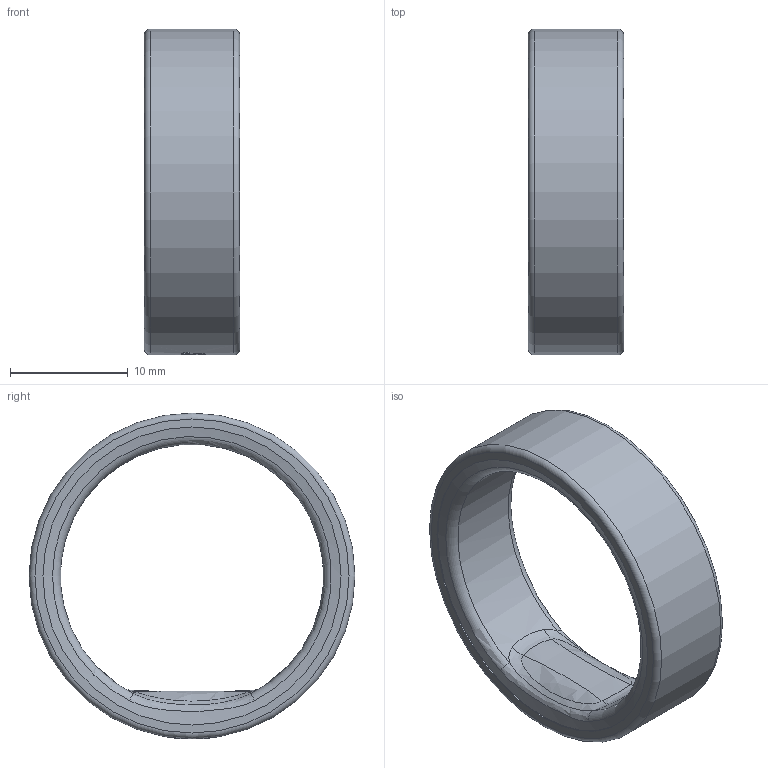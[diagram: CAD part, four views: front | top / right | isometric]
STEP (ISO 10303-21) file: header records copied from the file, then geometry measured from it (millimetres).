
FILE_DESCRIPTION(/* description */ (''),/* implementation_level */ '2;1');
FILE_NAME(/* name */ 'Size 12_Sizing Kit v4.step',/* time_stamp */ '2024-05-07T15:39:11+05:30',/* author */ (''),/* organization */ (''),/* preprocessor_version */ 'ST-DEVELOPER v20',/* originating_system */ 'Autodesk Translation Framework v12.20.1.177',/* authorisation */ '');
FILE_SCHEMA (('AUTOMOTIVE_DESIGN { 1 0 10303 214 3 1 1 }'));
Length unit declared in the file: millimetre
Products named in the file (2): Size 12_Sizing Kit; S12 v7
Assembly tree (1 placements, depth 2):
  Size 12_Sizing Kit
    S12 v7
Bounding box: 8.1 x 27.71 x 27.71 mm (x, y, z)
Volume: 1646.9 mm3; surface area: 1965.7 mm2
Topology: 1 solids, 3 shells, 95 faces, 246 edges, 160 vertices
Faces by surface type: bspline 61, plane 20, cylinder 8, torus 4, cone 2
Full cylindrical faces by diameter (mm): 25.117 x1, 25.347 x1, 25.445 x2, 27.112 x2, 27.713 x1
Entity records: 5042 total; most frequent: CARTESIAN_POINT 3022, ORIENTED_EDGE 492, DIRECTION 255, EDGE_CURVE 246, VERTEX_POINT 160, B_SPLINE_CURVE_WITH_KNOTS 116, EDGE_LOOP 104, FACE_OUTER_BOUND 95
